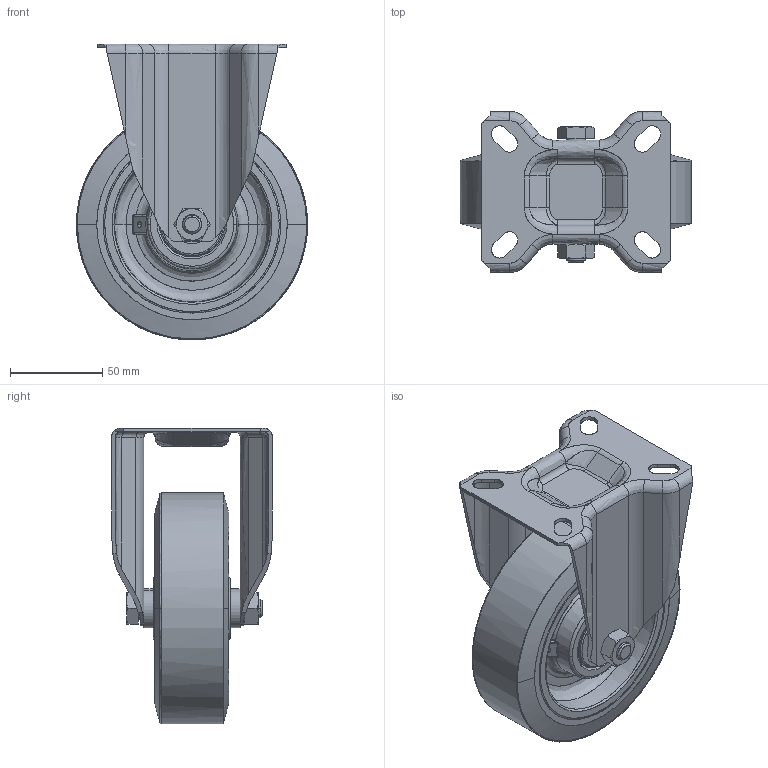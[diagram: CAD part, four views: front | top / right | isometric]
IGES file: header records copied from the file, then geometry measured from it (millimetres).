
Start section: SolidWorks IGES file using analytic representation for surfaces
Global section: file name: S:\Tyokansio\KULJETUSPYÖRÄT\LK\LS\IGES\401528_.igs; native system: SolidWorks 2014; preprocessor: SolidWorks 2014; author: markola; date: 150914.094338; units: millimetre
Bounding box: 125 x 87 x 160 mm (x, y, z)
Surface area: 126637.3 mm2 (no closed solid volume)
Topology: 0 solids, 0 shells, 438 faces, 5384 edges, 5380 vertices
Faces by surface type: bspline 315, revolution 123
